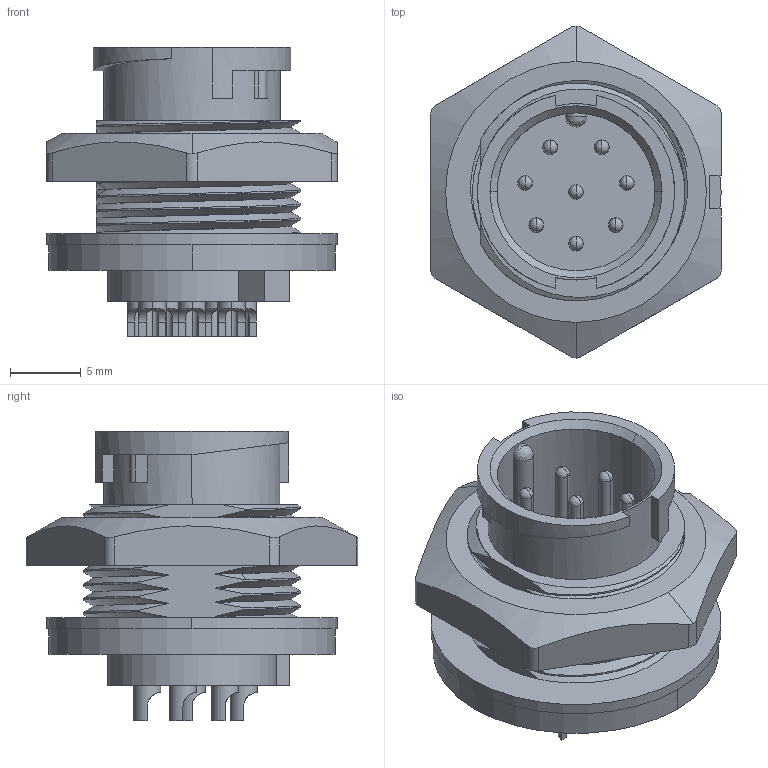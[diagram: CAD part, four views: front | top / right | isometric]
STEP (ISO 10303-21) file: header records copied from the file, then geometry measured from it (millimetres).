
FILE_DESCRIPTION (( 'STEP AP203' ), '1' );
FILE_NAME ('869-008-103R001.STEP', '2024-06-14T18:31:25', ( '' ), ( '' ), 'SwSTEP 2.0', 'SolidWorks 2020', '' );
FILE_SCHEMA (( 'CONFIG_CONTROL_DESIGN' ));
Length unit declared in the file: millimetre
Products named in the file (1): 869-008-103R001
Bounding box: 20.6 x 23.54 x 20.5 mm (x, y, z)
Volume: 2693.8 mm3; surface area: 3638.4 mm2
Topology: 2 solids, 2 shells, 267 faces, 716 edges, 433 vertices
Faces by surface type: cylinder 111, plane 75, bspline 60, cone 21
Entity records: 14750 total; most frequent: CARTESIAN_POINT 8732, ORIENTED_EDGE 1332, DIRECTION 1063, EDGE_CURVE 666, VERTEX_POINT 433, AXIS2_PLACEMENT_3D 403, EDGE_LOOP 299, ADVANCED_FACE 267
